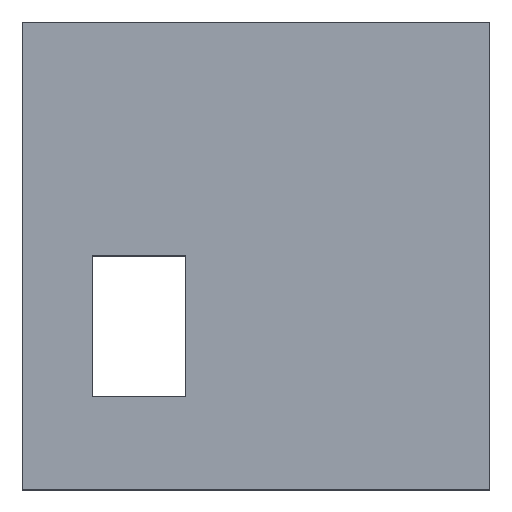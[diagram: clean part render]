
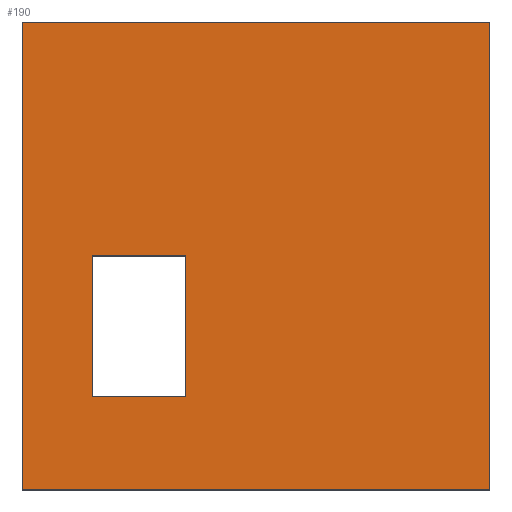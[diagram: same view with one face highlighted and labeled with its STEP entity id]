
A CAD part, top view. The second image highlights one B-rep face of the part: STEP entity #190.
In plain terms, the highlighted planar face has unit normal (0, 0, 1).
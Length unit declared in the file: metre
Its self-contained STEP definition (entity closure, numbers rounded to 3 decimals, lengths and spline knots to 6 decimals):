
#44=ORIENTED_EDGE('',*,*,#72,.F.);
#45=ORIENTED_EDGE('',*,*,#76,.T.);
#46=ORIENTED_EDGE('',*,*,#79,.T.);
#47=ORIENTED_EDGE('',*,*,#81,.F.);
#48=ORIENTED_EDGE('',*,*,#62,.F.);
#49=ORIENTED_EDGE('',*,*,#66,.T.);
#50=ORIENTED_EDGE('',*,*,#69,.T.);
#51=ORIENTED_EDGE('',*,*,#83,.F.);
#62=EDGE_CURVE('',#86,#87,#102,.T.);
#66=EDGE_CURVE('',#86,#89,#106,.T.);
#69=EDGE_CURVE('',#89,#91,#109,.T.);
#72=EDGE_CURVE('',#94,#95,#112,.T.);
#76=EDGE_CURVE('',#94,#97,#116,.T.);
#79=EDGE_CURVE('',#97,#99,#119,.T.);
#81=EDGE_CURVE('',#95,#99,#121,.T.);
#83=EDGE_CURVE('',#87,#91,#123,.T.);
#86=VERTEX_POINT('',#267);
#87=VERTEX_POINT('',#269);
#89=VERTEX_POINT('',#275);
#91=VERTEX_POINT('',#281);
#94=VERTEX_POINT('',#288);
#95=VERTEX_POINT('',#290);
#97=VERTEX_POINT('',#296);
#99=VERTEX_POINT('',#302);
#102=LINE('',#268,#126);
#106=LINE('',#276,#130);
#109=LINE('',#282,#133);
#112=LINE('',#289,#136);
#116=LINE('',#297,#140);
#119=LINE('',#303,#143);
#121=LINE('',#306,#145);
#123=LINE('',#309,#147);
#126=VECTOR('',#221,1.);
#130=VECTOR('',#227,1.);
#133=VECTOR('',#232,1.);
#136=VECTOR('',#237,1.);
#140=VECTOR('',#243,1.);
#143=VECTOR('',#248,1.);
#145=VECTOR('',#252,1.);
#147=VECTOR('',#256,1.);
#156=EDGE_LOOP('',(#44,#45,#46,#47));
#157=EDGE_LOOP('',(#48,#49,#50,#51));
#168=FACE_BOUND('',#156,.T.);
#169=FACE_BOUND('',#157,.T.);
#180=PLANE('',#213);
#190=ADVANCED_FACE('',(#168,#169),#180,.T.);
#213=AXIS2_PLACEMENT_3D('',#310,#257,#258);
#221=DIRECTION('',(-1.,0.,0.));
#227=DIRECTION('',(0.,-1.,0.));
#232=DIRECTION('',(-1.,0.,0.));
#237=DIRECTION('',(0.,-1.,0.));
#243=DIRECTION('',(-1.,0.,0.));
#248=DIRECTION('',(0.,-1.,0.));
#252=DIRECTION('',(-1.,0.,0.));
#256=DIRECTION('',(0.,-1.,0.));
#257=DIRECTION('',(0.,0.,1.));
#258=DIRECTION('',(1.,0.,0.));
#267=CARTESIAN_POINT('',(-0.422646,0.25804,0.004));
#268=CARTESIAN_POINT('',(-0.432646,0.25804,0.004));
#269=CARTESIAN_POINT('',(-0.442646,0.25804,0.004));
#275=CARTESIAN_POINT('',(-0.422646,0.22804,0.004));
#276=CARTESIAN_POINT('',(-0.422646,0.24304,0.004));
#281=CARTESIAN_POINT('',(-0.442646,0.22804,0.004));
#282=CARTESIAN_POINT('',(-0.432646,0.22804,0.004));
#288=CARTESIAN_POINT('',(-0.357646,0.30804,0.004));
#289=CARTESIAN_POINT('',(-0.357646,0.25804,0.004));
#290=CARTESIAN_POINT('',(-0.357646,0.20804,0.004));
#296=CARTESIAN_POINT('',(-0.457646,0.30804,0.004));
#297=CARTESIAN_POINT('',(-0.407646,0.30804,0.004));
#302=CARTESIAN_POINT('',(-0.457646,0.20804,0.004));
#303=CARTESIAN_POINT('',(-0.457646,0.25804,0.004));
#306=CARTESIAN_POINT('',(-0.407646,0.20804,0.004));
#309=CARTESIAN_POINT('',(-0.442646,0.24304,0.004));
#310=CARTESIAN_POINT('',(-0.407646,0.25804,0.004));
